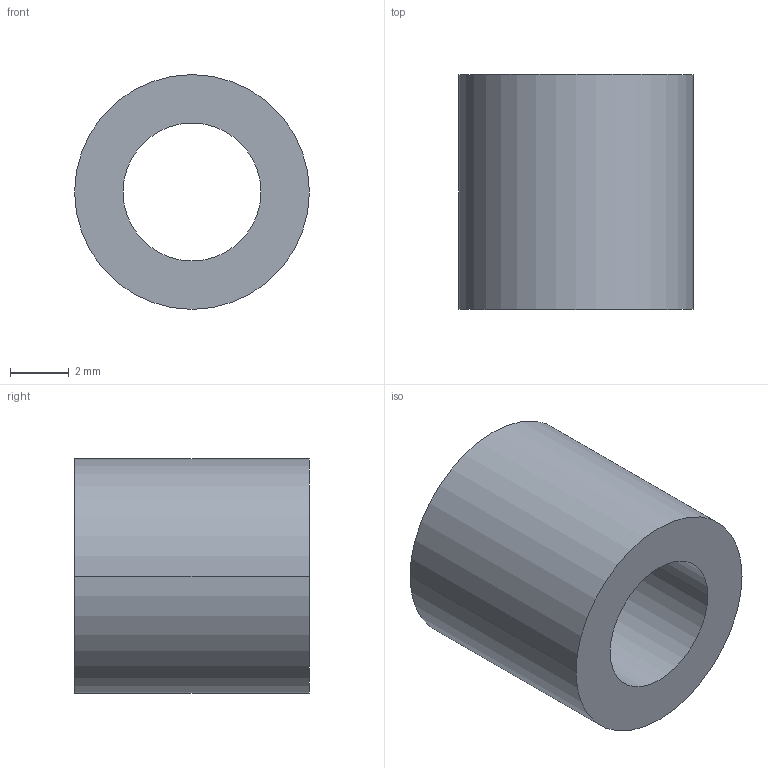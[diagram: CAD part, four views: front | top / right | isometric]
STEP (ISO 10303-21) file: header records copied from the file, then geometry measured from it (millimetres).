
FILE_DESCRIPTION (( 'STEP AP203' ), '1' );
FILE_NAME ('30800.WPP8B4.7.step', '2019-01-23T22:21:34', ( '' ), ( '' ), 'SwSTEP 2.0', 'SolidWorks 2017', '' );
FILE_SCHEMA (( 'CONFIG_CONTROL_DESIGN' ));
Length unit declared in the file: millimetre
Products named in the file (1): 30800.WPP8B4.7
Bounding box: 8 x 8 x 8 mm (x, y, z)
Volume: 259.9 mm3; surface area: 379.1 mm2
Topology: 1 solids, 1 shells, 8 faces, 16 edges, 10 vertices
Faces by surface type: cylinder 4, torus 2, plane 2
Entity records: 297 total; most frequent: DIRECTION 46, CARTESIAN_POINT 35, ORIENTED_EDGE 32, AXIS2_PLACEMENT_3D 21, EDGE_CURVE 16, CIRCLE 12, VERTEX_POINT 10, EDGE_LOOP 10
